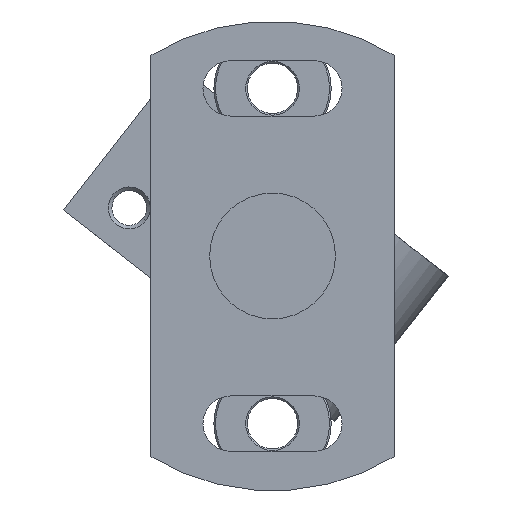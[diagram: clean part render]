
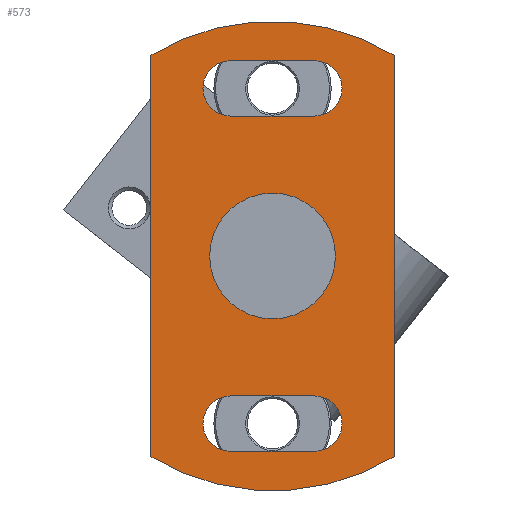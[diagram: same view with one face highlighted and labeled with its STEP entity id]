
A CAD part, front view. The second image highlights one B-rep face of the part: STEP entity #573.
In plain terms, the highlighted planar face has unit normal (0, -1, 0).
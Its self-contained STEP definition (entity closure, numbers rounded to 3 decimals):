
#32 = FACE_BOUND ( 'NONE', #4876, .T. ) ;
#33 = AXIS2_PLACEMENT_3D ( 'NONE', #2954, #111, #2084 ) ;
#111 = DIRECTION ( 'NONE',  ( 0., 1., 0. ) ) ;
#163 = CARTESIAN_POINT ( 'NONE',  ( 23.953, 0., -14.5 ) ) ;
#192 = DIRECTION ( 'NONE',  ( 0., 0., -1. ) ) ;
#252 = CARTESIAN_POINT ( 'NONE',  ( 23.953, 0., 14.5 ) ) ;
#291 = CARTESIAN_POINT ( 'NONE',  ( -23.953, 0., -14.5 ) ) ;
#322 = ORIENTED_EDGE ( 'NONE', *, *, #929, .F. ) ;
#332 = ORIENTED_EDGE ( 'NONE', *, *, #3608, .T. ) ;
#487 = EDGE_CURVE ( 'NONE', #4016, #1389, #2071, .T. ) ;
#551 = ORIENTED_EDGE ( 'NONE', *, *, #487, .T. ) ;
#573 = ADVANCED_FACE ( 'NONE', ( #5473, #592, #32, #3963 ), #4055, .T. ) ;
#592 = FACE_BOUND ( 'NONE', #5667, .T. ) ;
#644 = EDGE_CURVE ( 'NONE', #3463, #6077, #3007, .T. ) ;
#660 = DIRECTION ( 'NONE',  ( 0., -1., 0. ) ) ;
#688 = DIRECTION ( 'NONE',  ( 1., 0., 0. ) ) ;
#690 = CARTESIAN_POINT ( 'NONE',  ( 0., 0., 0. ) ) ;
#773 = LINE ( 'NONE', #4300, #2728 ) ;
#806 = CARTESIAN_POINT ( 'NONE',  ( 20., 0., -5. ) ) ;
#873 = EDGE_CURVE ( 'NONE', #5089, #5512, #4866, .T. ) ;
#903 = DIRECTION ( 'NONE',  ( -1., 0., 0. ) ) ;
#929 = EDGE_CURVE ( 'NONE', #5453, #1727, #1024, .T. ) ;
#941 = CARTESIAN_POINT ( 'NONE',  ( 16.7, 0., -5. ) ) ;
#947 = AXIS2_PLACEMENT_3D ( 'NONE', #3064, #4475, #3561 ) ;
#956 = VECTOR ( 'NONE', #2902, 1000. ) ;
#1024 = CIRCLE ( 'NONE', #1935, 7.5 ) ;
#1041 = EDGE_CURVE ( 'NONE', #5544, #2980, #6070, .T. ) ;
#1066 = AXIS2_PLACEMENT_3D ( 'NONE', #690, #660, #3721 ) ;
#1140 = CARTESIAN_POINT ( 'NONE',  ( 7.5, 0., 0. ) ) ;
#1231 = AXIS2_PLACEMENT_3D ( 'NONE', #1508, #1653, #4583 ) ;
#1298 = VERTEX_POINT ( 'NONE', #1793 ) ;
#1327 = EDGE_CURVE ( 'NONE', #1298, #5412, #1337, .T. ) ;
#1337 = CIRCLE ( 'NONE', #4936, 3.3 ) ;
#1389 = VERTEX_POINT ( 'NONE', #5811 ) ;
#1446 = DIRECTION ( 'NONE',  ( 0., 0., -1. ) ) ;
#1467 = AXIS2_PLACEMENT_3D ( 'NONE', #1140, #6214, #192 ) ;
#1508 = CARTESIAN_POINT ( 'NONE',  ( -20., 0., -5. ) ) ;
#1641 = VERTEX_POINT ( 'NONE', #4662 ) ;
#1643 = CIRCLE ( 'NONE', #3091, 3.3 ) ;
#1653 = DIRECTION ( 'NONE',  ( 0., 1., 0. ) ) ;
#1698 = EDGE_CURVE ( 'NONE', #1727, #5453, #6299, .T. ) ;
#1727 = VERTEX_POINT ( 'NONE', #2039 ) ;
#1730 = LINE ( 'NONE', #5721, #6038 ) ;
#1793 = CARTESIAN_POINT ( 'NONE',  ( 23.3, 0., -5. ) ) ;
#1797 = VECTOR ( 'NONE', #1953, 1000. ) ;
#1914 = DIRECTION ( 'NONE',  ( 0., -1., 0. ) ) ;
#1935 = AXIS2_PLACEMENT_3D ( 'NONE', #5839, #1914, #1446 ) ;
#1953 = DIRECTION ( 'NONE',  ( 0., 0., 1. ) ) ;
#2039 = CARTESIAN_POINT ( 'NONE',  ( 0., 0., -7.5 ) ) ;
#2065 = CARTESIAN_POINT ( 'NONE',  ( -23.953, 0., 14.5 ) ) ;
#2071 = CIRCLE ( 'NONE', #947, 3.3 ) ;
#2084 = DIRECTION ( 'NONE',  ( 1., 0., 0. ) ) ;
#2243 = EDGE_CURVE ( 'NONE', #2996, #1641, #1643, .T. ) ;
#2245 = DIRECTION ( 'NONE',  ( 1., 0., 0. ) ) ;
#2272 = DIRECTION ( 'NONE',  ( -0.855, 0., 0.518 ) ) ;
#2303 = EDGE_CURVE ( 'NONE', #2980, #6190, #5994, .T. ) ;
#2388 = VECTOR ( 'NONE', #688, 1000. ) ;
#2452 = CARTESIAN_POINT ( 'NONE',  ( 0., 0., 0. ) ) ;
#2683 = EDGE_CURVE ( 'NONE', #4137, #4016, #6384, .T. ) ;
#2728 = VECTOR ( 'NONE', #3249, 1000. ) ;
#2760 = DIRECTION ( 'NONE',  ( 0., -1., 0. ) ) ;
#2902 = DIRECTION ( 'NONE',  ( 0., 0., 1. ) ) ;
#2910 = CARTESIAN_POINT ( 'NONE',  ( 16.7, 0., 5. ) ) ;
#2911 = DIRECTION ( 'NONE',  ( 0., 0., -1. ) ) ;
#2926 = CARTESIAN_POINT ( 'NONE',  ( -20., 0., 5. ) ) ;
#2927 = LINE ( 'NONE', #5291, #1797 ) ;
#2928 = ORIENTED_EDGE ( 'NONE', *, *, #3520, .F. ) ;
#2954 = CARTESIAN_POINT ( 'NONE',  ( -20., 0., -5. ) ) ;
#2980 = VERTEX_POINT ( 'NONE', #3801 ) ;
#2996 = VERTEX_POINT ( 'NONE', #3313 ) ;
#3007 = CIRCLE ( 'NONE', #1066, 28. ) ;
#3064 = CARTESIAN_POINT ( 'NONE',  ( 20., 0., 5. ) ) ;
#3077 = AXIS2_PLACEMENT_3D ( 'NONE', #2452, #5856, #2911 ) ;
#3091 = AXIS2_PLACEMENT_3D ( 'NONE', #2926, #3799, #903 ) ;
#3249 = DIRECTION ( 'NONE',  ( 0., 0., -1. ) ) ;
#3289 = DIRECTION ( 'NONE',  ( 0., 1., 0. ) ) ;
#3290 = LINE ( 'NONE', #5262, #5907 ) ;
#3313 = CARTESIAN_POINT ( 'NONE',  ( -23.3, 0., 5. ) ) ;
#3323 = CARTESIAN_POINT ( 'NONE',  ( 20., 0., -5. ) ) ;
#3386 = ORIENTED_EDGE ( 'NONE', *, *, #873, .T. ) ;
#3452 = ORIENTED_EDGE ( 'NONE', *, *, #4267, .T. ) ;
#3463 = VERTEX_POINT ( 'NONE', #163 ) ;
#3477 = ORIENTED_EDGE ( 'NONE', *, *, #1698, .F. ) ;
#3497 = CARTESIAN_POINT ( 'NONE',  ( 16.7, 0., -5. ) ) ;
#3518 = CARTESIAN_POINT ( 'NONE',  ( 20., 0., -8.3 ) ) ;
#3520 = EDGE_CURVE ( 'NONE', #5089, #6077, #5102, .T. ) ;
#3539 = CIRCLE ( 'NONE', #6333, 3.3 ) ;
#3561 = DIRECTION ( 'NONE',  ( -1., 0., 0. ) ) ;
#3608 = EDGE_CURVE ( 'NONE', #1641, #5544, #3290, .T. ) ;
#3685 = CARTESIAN_POINT ( 'NONE',  ( -23.953, 0., 14.5 ) ) ;
#3721 = DIRECTION ( 'NONE',  ( 0.855, 0., -0.518 ) ) ;
#3799 = DIRECTION ( 'NONE',  ( 0., 1., 0. ) ) ;
#3801 = CARTESIAN_POINT ( 'NONE',  ( -20., 0., -8.3 ) ) ;
#3903 = ORIENTED_EDGE ( 'NONE', *, *, #5572, .T. ) ;
#3963 = FACE_BOUND ( 'NONE', #6277, .T. ) ;
#3999 = ORIENTED_EDGE ( 'NONE', *, *, #2303, .T. ) ;
#4016 = VERTEX_POINT ( 'NONE', #2910 ) ;
#4055 = PLANE ( 'NONE',  #1467 ) ;
#4137 = VERTEX_POINT ( 'NONE', #3497 ) ;
#4206 = CARTESIAN_POINT ( 'NONE',  ( 0., 0., 7.5 ) ) ;
#4267 = EDGE_CURVE ( 'NONE', #5412, #4137, #3539, .T. ) ;
#4295 = CARTESIAN_POINT ( 'NONE',  ( 0., 0., 0. ) ) ;
#4300 = CARTESIAN_POINT ( 'NONE',  ( 23.3, 0., 5. ) ) ;
#4371 = ORIENTED_EDGE ( 'NONE', *, *, #5501, .T. ) ;
#4424 = ORIENTED_EDGE ( 'NONE', *, *, #2683, .T. ) ;
#4475 = DIRECTION ( 'NONE',  ( 0., 1., 0. ) ) ;
#4481 = ORIENTED_EDGE ( 'NONE', *, *, #2243, .T. ) ;
#4516 = ORIENTED_EDGE ( 'NONE', *, *, #5104, .F. ) ;
#4583 = DIRECTION ( 'NONE',  ( 1., 0., 0. ) ) ;
#4662 = CARTESIAN_POINT ( 'NONE',  ( -16.7, 0., 5. ) ) ;
#4670 = AXIS2_PLACEMENT_3D ( 'NONE', #4295, #2760, #2272 ) ;
#4685 = DIRECTION ( 'NONE',  ( -1., 0., 0. ) ) ;
#4712 = DIRECTION ( 'NONE',  ( 0., 1., 0. ) ) ;
#4736 = ORIENTED_EDGE ( 'NONE', *, *, #1327, .T. ) ;
#4743 = DIRECTION ( 'NONE',  ( 1., 0., 0. ) ) ;
#4866 = CIRCLE ( 'NONE', #4670, 28. ) ;
#4876 = EDGE_LOOP ( 'NONE', ( #3477, #322 ) ) ;
#4936 = AXIS2_PLACEMENT_3D ( 'NONE', #3323, #3289, #4743 ) ;
#5089 = VERTEX_POINT ( 'NONE', #2065 ) ;
#5102 = LINE ( 'NONE', #3685, #2388 ) ;
#5104 = EDGE_CURVE ( 'NONE', #3463, #5512, #1730, .T. ) ;
#5263 = ORIENTED_EDGE ( 'NONE', *, *, #1041, .T. ) ;
#5262 = CARTESIAN_POINT ( 'NONE',  ( -16.7, 0., 5. ) ) ;
#5291 = CARTESIAN_POINT ( 'NONE',  ( -23.3, 0., -5. ) ) ;
#5371 = CARTESIAN_POINT ( 'NONE',  ( -23.3, 0., -5. ) ) ;
#5412 = VERTEX_POINT ( 'NONE', #3518 ) ;
#5453 = VERTEX_POINT ( 'NONE', #4206 ) ;
#5473 = FACE_OUTER_BOUND ( 'NONE', #5771, .T. ) ;
#5501 = EDGE_CURVE ( 'NONE', #1389, #1298, #773, .T. ) ;
#5512 = VERTEX_POINT ( 'NONE', #291 ) ;
#5544 = VERTEX_POINT ( 'NONE', #5843 ) ;
#5572 = EDGE_CURVE ( 'NONE', #6190, #2996, #2927, .T. ) ;
#5667 = EDGE_LOOP ( 'NONE', ( #4424, #551, #4371, #4736, #3452 ) ) ;
#5721 = CARTESIAN_POINT ( 'NONE',  ( 23.953, 0., -14.5 ) ) ;
#5771 = EDGE_LOOP ( 'NONE', ( #4516, #5979, #2928, #3386 ) ) ;
#5811 = CARTESIAN_POINT ( 'NONE',  ( 23.3, 0., 5. ) ) ;
#5839 = CARTESIAN_POINT ( 'NONE',  ( 0., 0., 0. ) ) ;
#5843 = CARTESIAN_POINT ( 'NONE',  ( -16.7, 0., -5. ) ) ;
#5856 = DIRECTION ( 'NONE',  ( 0., -1., 0. ) ) ;
#5907 = VECTOR ( 'NONE', #6276, 1000. ) ;
#5979 = ORIENTED_EDGE ( 'NONE', *, *, #644, .T. ) ;
#5994 = CIRCLE ( 'NONE', #33, 3.3 ) ;
#6038 = VECTOR ( 'NONE', #4685, 1000. ) ;
#6070 = CIRCLE ( 'NONE', #1231, 3.3 ) ;
#6077 = VERTEX_POINT ( 'NONE', #252 ) ;
#6190 = VERTEX_POINT ( 'NONE', #5371 ) ;
#6214 = DIRECTION ( 'NONE',  ( 0., -1., 0. ) ) ;
#6277 = EDGE_LOOP ( 'NONE', ( #332, #5263, #3999, #3903, #4481 ) ) ;
#6276 = DIRECTION ( 'NONE',  ( 0., 0., -1. ) ) ;
#6299 = CIRCLE ( 'NONE', #3077, 7.5 ) ;
#6333 = AXIS2_PLACEMENT_3D ( 'NONE', #806, #4712, #2245 ) ;
#6384 = LINE ( 'NONE', #941, #956 ) ;
